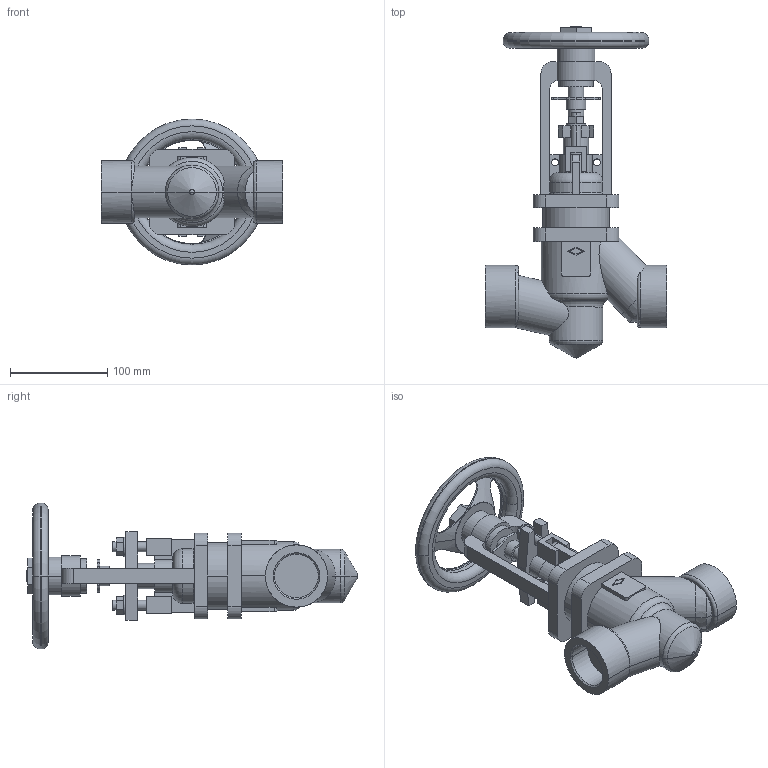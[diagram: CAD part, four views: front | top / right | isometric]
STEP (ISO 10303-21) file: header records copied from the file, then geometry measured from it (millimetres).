
FILE_DESCRIPTION(('OneSpaceDesigner STEP Export'),'2;1');
FILE_NAME('c000004257.stp','2010-05-04T 9:26:46',(''),(''),'OneSpace Designer STEP processor for AP214 (Solid Model)','OneSpace Modeling 15.50B 03-Nov-2007 (C) CoCreate Software GmbH','');
FILE_SCHEMA(('AUTOMOTIVE_DESIGN { 1 0 10303 214 1 1 1 1 }'));
Length unit declared in the file: millimetre
Products named in the file (1): 1
Bounding box: 186 x 341.13 x 150 mm (x, y, z)
Volume: 1331033.4 mm3; surface area: 178605 mm2
Topology: 1 solids, 1 shells, 288 faces, 772 edges, 504 vertices
Faces by surface type: plane 141, cylinder 101, torus 28, cone 16, sphere 2
Entity records: 11701 total; most frequent: CARTESIAN_POINT 2542, ORIENTED_EDGE 1536, DIRECTION 1286, EDGE_CURVE 768, VERTEX_POINT 500, AXIS2_PLACEMENT_3D 436, VECTOR 414, LINE 414
